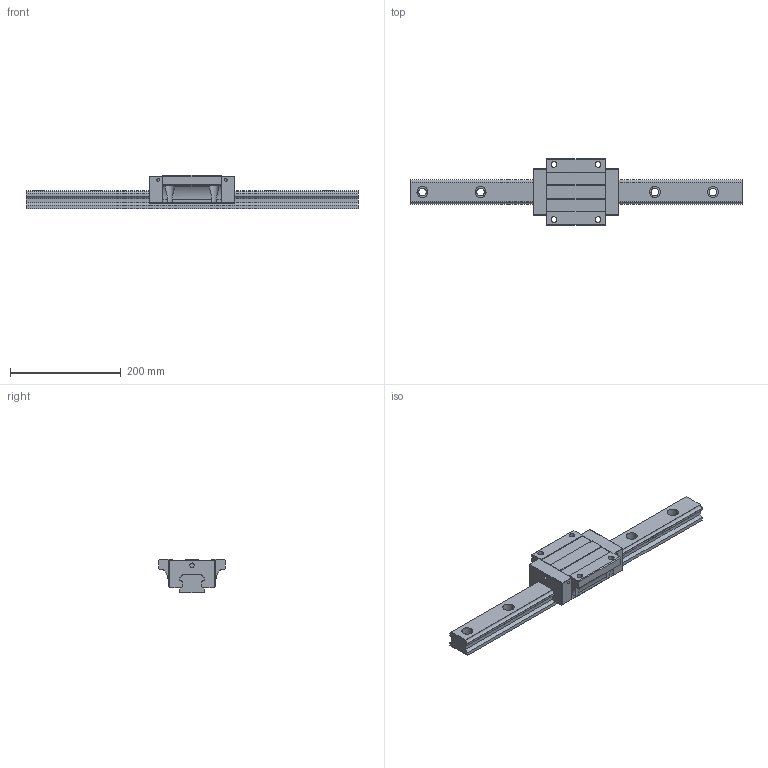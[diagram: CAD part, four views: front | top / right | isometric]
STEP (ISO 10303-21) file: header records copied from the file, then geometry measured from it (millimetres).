
FILE_DESCRIPTION (( 'STEP AP203' ), '1' );
FILE_NAME ('TRH45FL-SZ.STEP', '2024-06-26T06:46:37', ( '' ), ( '' ), 'SwSTEP 2.0', 'SolidWorks 2022', '' );
FILE_SCHEMA (( 'CONFIG_CONTROL_DESIGN' ));
Length unit declared in the file: millimetre
Products named in the file (1): TRH45FL-SZ
Bounding box: 600 x 120 x 60 mm (x, y, z)
Volume: 1282912.6 mm3; surface area: 174861 mm2
Topology: 2 solids, 2 shells, 214 faces, 582 edges, 380 vertices
Faces by surface type: cylinder 114, plane 96, sphere 4
Entity records: 7369 total; most frequent: CARTESIAN_POINT 1749, DIRECTION 1172, ORIENTED_EDGE 1156, EDGE_CURVE 578, AXIS2_PLACEMENT_3D 411, VERTEX_POINT 380, LINE 350, VECTOR 350
